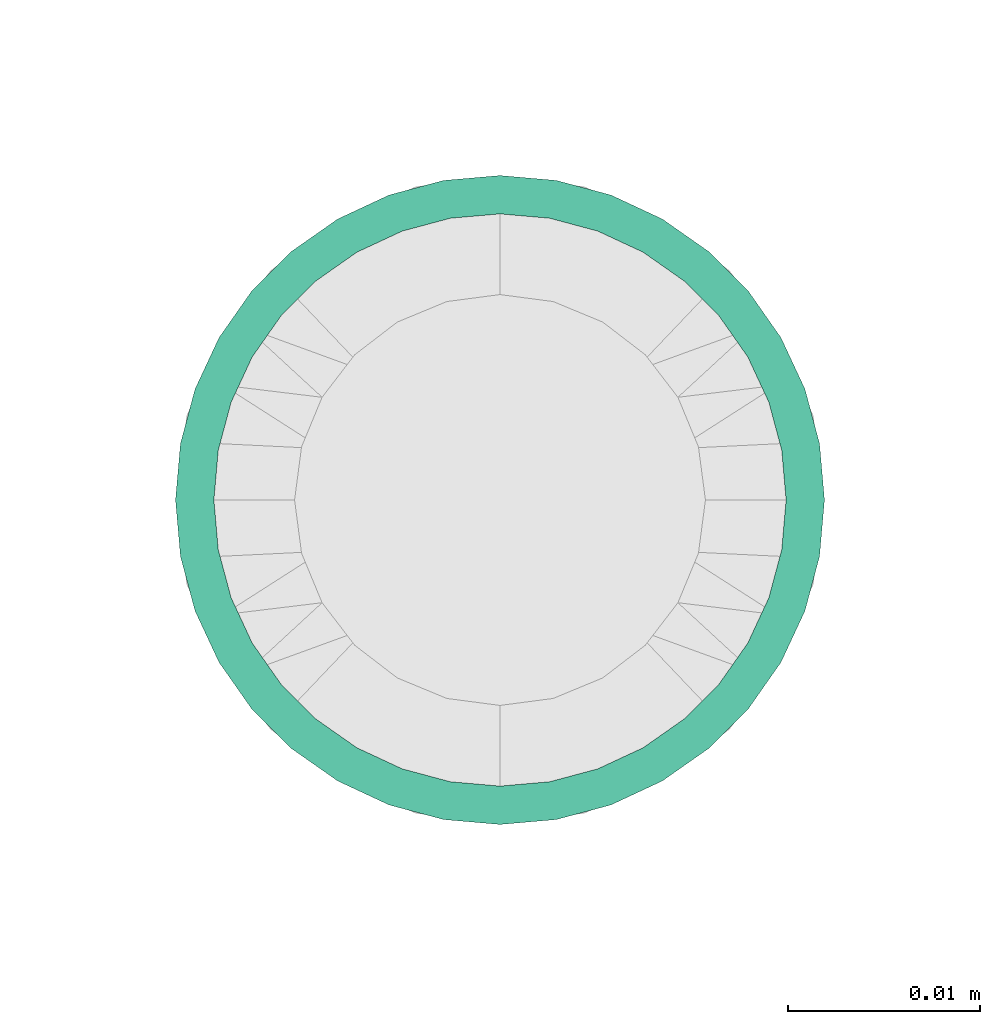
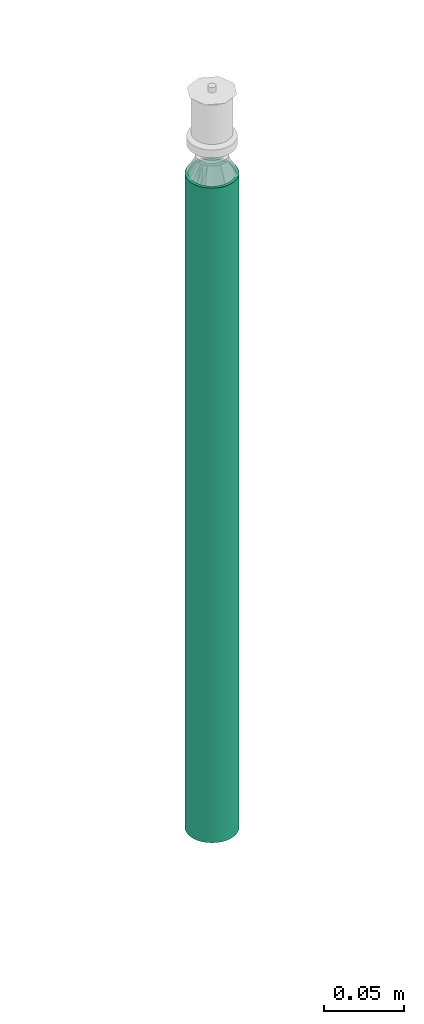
# One storey, part 41 of 44: 1 flow segment.
"""IFC2X3 building model written with IfcOpenShell, lengths in millimetres."""

from ifc_helpers import new_model, entity, si_unit, converted_unit, derived_unit, direction, frame, place, context, subcontext, project, spatial, faceted_brep, type_object, element, save


model = new_model("IFC2X3")

# Units and contexts
model_context = context("Model", 3, precision=0.01, world=frame((0.0, 4.29681676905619e-09, 0.0)), true_north=direction((4.01073788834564e-13, 1.0)))
plan_context = context("Plan", 3, precision=0.01, world=frame((0.0, 4.29681676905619e-09, 0.0)), true_north=direction((4.01073788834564e-13, 1.0)))
body_context = subcontext(model_context, "Body", "Model", "MODEL_VIEW")
ifc_project = project(units=[converted_unit("PLANEANGLEUNIT", "DEGREE", entity("IfcPositiveLengthMeasure", 0.0174532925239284), si_unit("PLANEANGLEUNIT", "RADIAN"), dimensions=[0, 0, 0, 0, 0, 0, 0]), si_unit("AREAUNIT", "SQUARE_METRE"), si_unit("LENGTHUNIT", "METRE", prefix="MILLI"), si_unit("MASSUNIT", "GRAM", prefix="KILO"), si_unit("POWERUNIT", "WATT"), si_unit("PRESSUREUNIT", "PASCAL"), si_unit("FORCEUNIT", "NEWTON", prefix="KILO"), si_unit("ELECTRICVOLTAGEUNIT", "VOLT"), si_unit("ELECTRICCURRENTUNIT", "AMPERE"), si_unit("THERMODYNAMICTEMPERATUREUNIT", "DEGREE_CELSIUS"), si_unit("TIMEUNIT", "SECOND"), si_unit("VOLUMEUNIT", "CUBIC_METRE"), derived_unit("LINEARVELOCITYUNIT", [(si_unit("LENGTHUNIT", "METRE"), 1), (si_unit("TIMEUNIT", "SECOND"), -1)]), derived_unit("VOLUMETRICFLOWRATEUNIT", [(si_unit("VOLUMEUNIT", "CUBIC_METRE"), 1), (si_unit("TIMEUNIT", "SECOND"), -1)]), derived_unit("THERMALTRANSMITTANCEUNIT", [(si_unit("POWERUNIT", "WATT"), 1), (si_unit("THERMODYNAMICTEMPERATUREUNIT", "KELVIN"), -1), (si_unit("AREAUNIT", "SQUARE_METRE"), -1)]), derived_unit("SOUNDPRESSUREUNIT", [(si_unit("PRESSUREUNIT", "PASCAL"), 1)])], contexts=[model_context, plan_context])

# Site, building, storey
site_placement = place(None, frame((0.0, -4.29681676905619e-09, 0.0), z_axis=(0.0, 0.0, 1.0), x_axis=(1.0, 0.0, 0.0)))
site = spatial("IfcSite", under=ifc_project, at=site_placement, CompositionType="ELEMENT")
building_placement = place(site_placement, frame((0.0, 4.29681676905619e-09, 0.0), z_axis=(0.0, 0.0, 1.0), x_axis=(1.0, 0.0, 0.0)))
building = spatial("IfcBuilding", under=site, at=building_placement, Name="mc-building", CompositionType="ELEMENT")
storey_placement = place(building_placement, frame((0.0, 0.0, 207370.0), z_axis=(0.0, 0.0, 1.0), x_axis=(1.0, 0.0, 0.0)))
storey = spatial("IfcBuildingStorey", under=building, at=storey_placement, Name="Nivå E", CompositionType="ELEMENT", Elevation=207370.0)

# Flow segment
pipe_segment_type = type_object("IfcPipeSegmentType", Name="Stålrør normaltykke", PredefinedType="RIGIDSEGMENT")
flow_segment_placement = place(storey_placement, frame((533500.0, 453009.83177, 3027.60555000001), z_axis=(-1.0, 0.0, 0.0), x_axis=(0.0, 0.0, -1.0)))
element("IfcFlowSegment", 1, at=flow_segment_placement, inside=storey, type_object=pipe_segment_type, Name="Stålrør normaltykke", context=body_context, shape_type="Brep", body=[
    faceted_brep([(497.605550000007, 14.9, 0.0), (497.605550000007, 14.6736355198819, -2.58735784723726), (0.0, 14.6736355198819, -2.58735784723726), (0.0, 14.9, 0.0), (497.605550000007, 14.00142004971, -5.09610013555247), (0.0, 14.00142004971, -5.09610013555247), (497.605550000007, 12.9037785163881, -7.45000000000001), (0.0, 12.9037785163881, -7.45000000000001), (497.605550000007, 11.4140622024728, -9.57753538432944), (0.0, 11.4140622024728, -9.57753538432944), (497.605550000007, 9.57753538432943, -11.4140622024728), (0.0, 9.57753538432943, -11.4140622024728), (497.605550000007, 7.45, -12.9037785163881), (0.0, 7.45, -12.9037785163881), (497.605550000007, 5.09610013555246, -14.00142004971), (0.0, 5.09610013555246, -14.00142004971), (497.605550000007, 2.58735784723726, -14.6736355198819), (0.0, 2.58735784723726, -14.6736355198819), (497.605550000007, -2.73708559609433e-15, -14.9), (0.0, -2.73708559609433e-15, -14.9), (497.605550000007, -2.58735784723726, -14.6736355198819), (0.0, -2.58735784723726, -14.6736355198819), (497.605550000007, -5.09610013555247, -14.00142004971), (0.0, -5.09610013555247, -14.00142004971), (497.605550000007, -7.45000000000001, -12.9037785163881), (0.0, -7.45000000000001, -12.9037785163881), (497.605550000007, -9.57753538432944, -11.4140622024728), (0.0, -9.57753538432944, -11.4140622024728), (497.605550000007, -11.4140622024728, -9.57753538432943), (0.0, -11.4140622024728, -9.57753538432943), (497.605550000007, -12.9037785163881, -7.44999999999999), (0.0, -12.9037785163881, -7.44999999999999), (497.605550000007, -14.00142004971, -5.09610013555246), (0.0, -14.00142004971, -5.09610013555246), (497.605550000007, -14.6736355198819, -2.58735784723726), (0.0, -14.6736355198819, -2.58735784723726), (497.605550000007, -14.9, 1.82472373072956e-15), (0.0, -14.9, 1.82472373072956e-15), (497.605550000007, -14.6736355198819, 2.58735784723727), (0.0, -14.6736355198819, 2.58735784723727), (497.605550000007, -14.00142004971, 5.09610013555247), (0.0, -14.00142004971, 5.09610013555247), (497.605550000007, -12.9037785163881, 7.45), (0.0, -12.9037785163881, 7.45), (497.605550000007, -11.4140622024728, 9.57753538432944), (0.0, -11.4140622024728, 9.57753538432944), (497.605550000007, -9.57753538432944, 11.4140622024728), (0.0, -9.57753538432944, 11.4140622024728), (497.605550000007, -7.45, 12.9037785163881), (0.0, -7.45, 12.9037785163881), (497.605550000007, -5.09610013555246, 14.00142004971), (0.0, -5.09610013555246, 14.00142004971), (497.605550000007, -2.58735784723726, 14.6736355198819), (0.0, -2.58735784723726, 14.6736355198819), (497.605550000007, 9.12361865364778e-16, 14.9), (0.0, 9.12361865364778e-16, 14.9), (497.605550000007, 2.58735784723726, 14.6736355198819), (0.0, 2.58735784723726, 14.6736355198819), (497.605550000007, 5.09610013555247, 14.00142004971), (0.0, 5.09610013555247, 14.00142004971), (497.605550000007, 7.45, 12.9037785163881), (0.0, 7.45, 12.9037785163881), (497.605550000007, 9.57753538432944, 11.4140622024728), (0.0, 9.57753538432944, 11.4140622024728), (497.605550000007, 11.4140622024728, 9.57753538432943), (0.0, 11.4140622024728, 9.57753538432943), (497.605550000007, 12.9037785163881, 7.45), (0.0, 12.9037785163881, 7.45), (497.605550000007, 14.00142004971, 5.09610013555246), (0.0, 14.00142004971, 5.09610013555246), (497.605550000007, 14.6736355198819, 2.58735784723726), (0.0, 14.6736355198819, 2.58735784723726), (497.605550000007, 16.6432510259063, -2.93465420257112), (497.605550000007, 16.9, 0.0), (0.0, 16.9, 0.0), (0.0, 16.6432510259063, -2.93465420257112), (497.605550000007, 16.6432510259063, 2.93465420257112), (0.0, 16.6432510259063, 2.93465420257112), (497.605550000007, 15.8808052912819, 5.7801404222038), (0.0, 15.8808052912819, 5.7801404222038), (497.605550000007, 14.635829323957, 8.45), (0.0, 14.635829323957, 8.45), (497.605550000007, 12.9461510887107, 10.8631106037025), (0.0, 12.9461510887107, 10.8631106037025), (497.605550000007, 10.8631106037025, 12.9461510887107), (0.0, 10.8631106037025, 12.9461510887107), (497.605550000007, 8.45, 14.635829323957), (0.0, 8.45, 14.635829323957), (497.605550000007, 5.7801404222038, 15.8808052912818), (0.0, 5.7801404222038, 15.8808052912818), (497.605550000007, 2.93465420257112, 16.6432510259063), (0.0, 2.93465420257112, 16.6432510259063), (497.605550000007, 1.03482654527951e-15, 16.9), (0.0, 1.03482654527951e-15, 16.9), (497.605550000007, -2.93465420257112, 16.6432510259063), (0.0, -2.93465420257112, 16.6432510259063), (497.605550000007, -5.7801404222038, 15.8808052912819), (0.0, -5.7801404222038, 15.8808052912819), (497.605550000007, -8.45, 14.635829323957), (0.0, -8.45, 14.635829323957), (497.605550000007, -10.8631106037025, 12.9461510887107), (0.0, -10.8631106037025, 12.9461510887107), (497.605550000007, -12.9461510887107, 10.8631106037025), (0.0, -12.9461510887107, 10.8631106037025), (497.605550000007, -14.635829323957, 8.45), (0.0, -14.635829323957, 8.45), (497.605550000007, -15.8808052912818, 5.7801404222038), (0.0, -15.8808052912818, 5.7801404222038), (497.605550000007, -16.6432510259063, 2.93465420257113), (0.0, -16.6432510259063, 2.93465420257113), (497.605550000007, -16.9, 2.06965309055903e-15), (0.0, -16.9, 2.06965309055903e-15), (497.605550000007, -16.6432510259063, -2.93465420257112), (0.0, -16.6432510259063, -2.93465420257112), (497.605550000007, -15.8808052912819, -5.7801404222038), (0.0, -15.8808052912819, -5.7801404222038), (497.605550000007, -14.635829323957, -8.44999999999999), (0.0, -14.635829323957, -8.44999999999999), (497.605550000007, -12.9461510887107, -10.8631106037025), (0.0, -12.9461510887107, -10.8631106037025), (497.605550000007, -10.8631106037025, -12.9461510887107), (0.0, -10.8631106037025, -12.9461510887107), (497.605550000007, -8.45000000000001, -14.635829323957), (0.0, -8.45000000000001, -14.635829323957), (497.605550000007, -5.78014042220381, -15.8808052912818), (0.0, -5.78014042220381, -15.8808052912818), (497.605550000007, -2.93465420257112, -16.6432510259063), (0.0, -2.93465420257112, -16.6432510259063), (497.605550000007, -3.10447963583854e-15, -16.9), (0.0, -3.10447963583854e-15, -16.9), (497.605550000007, 2.93465420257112, -16.6432510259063), (0.0, 2.93465420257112, -16.6432510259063), (497.605550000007, 5.78014042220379, -15.8808052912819), (0.0, 5.78014042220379, -15.8808052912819), (497.605550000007, 8.45, -14.635829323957), (0.0, 8.45, -14.635829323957), (497.605550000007, 10.8631106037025, -12.9461510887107), (0.0, 10.8631106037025, -12.9461510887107), (497.605550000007, 12.9461510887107, -10.8631106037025), (0.0, 12.9461510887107, -10.8631106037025), (497.605550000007, 14.635829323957, -8.45000000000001), (0.0, 14.635829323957, -8.45000000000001), (497.605550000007, 15.8808052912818, -5.78014042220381), (0.0, 15.8808052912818, -5.78014042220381)], [[[0, 1, 2, 3]], [[1, 4, 5, 2]], [[4, 6, 7, 5]], [[6, 8, 9, 7]], [[8, 10, 11, 9]], [[10, 12, 13, 11]], [[12, 14, 15, 13]], [[14, 16, 17, 15]], [[16, 18, 19, 17]], [[18, 20, 21, 19]], [[20, 22, 23, 21]], [[22, 24, 25, 23]], [[24, 26, 27, 25]], [[26, 28, 29, 27]], [[28, 30, 31, 29]], [[30, 32, 33, 31]], [[32, 34, 35, 33]], [[34, 36, 37, 35]], [[36, 38, 39, 37]], [[38, 40, 41, 39]], [[40, 42, 43, 41]], [[42, 44, 45, 43]], [[44, 46, 47, 45]], [[46, 48, 49, 47]], [[48, 50, 51, 49]], [[50, 52, 53, 51]], [[52, 54, 55, 53]], [[54, 56, 57, 55]], [[56, 58, 59, 57]], [[58, 60, 61, 59]], [[60, 62, 63, 61]], [[62, 64, 65, 63]], [[64, 66, 67, 65]], [[66, 68, 69, 67]], [[68, 70, 71, 69]], [[70, 0, 3, 71]], [[72, 73, 74, 75]], [[73, 76, 77, 74]], [[76, 78, 79, 77]], [[78, 80, 81, 79]], [[80, 82, 83, 81]], [[82, 84, 85, 83]], [[84, 86, 87, 85]], [[86, 88, 89, 87]], [[88, 90, 91, 89]], [[90, 92, 93, 91]], [[92, 94, 95, 93]], [[94, 96, 97, 95]], [[96, 98, 99, 97]], [[98, 100, 101, 99]], [[100, 102, 103, 101]], [[102, 104, 105, 103]], [[104, 106, 107, 105]], [[106, 108, 109, 107]], [[108, 110, 111, 109]], [[110, 112, 113, 111]], [[112, 114, 115, 113]], [[114, 116, 117, 115]], [[116, 118, 119, 117]], [[118, 120, 121, 119]], [[120, 122, 123, 121]], [[122, 124, 125, 123]], [[124, 126, 127, 125]], [[126, 128, 129, 127]], [[128, 130, 131, 129]], [[130, 132, 133, 131]], [[132, 134, 135, 133]], [[134, 136, 137, 135]], [[136, 138, 139, 137]], [[138, 140, 141, 139]], [[140, 142, 143, 141]], [[142, 72, 75, 143]], [[75, 74, 77, 79, 81, 83, 85, 87, 89, 91, 93, 95, 97, 99, 101, 103, 105, 107, 109, 111, 113, 115, 117, 119, 121, 123, 125, 127, 129, 131, 133, 135, 137, 139, 141, 143], [3, 2, 5, 7, 9, 11, 13, 15, 17, 19, 21, 23, 25, 27, 29, 31, 33, 35, 37, 39, 41, 43, 45, 47, 49, 51, 53, 55, 57, 59, 61, 63, 65, 67, 69, 71]], [[142, 140, 138, 136, 134, 132, 130, 128, 126, 124, 122, 120, 118, 116, 114, 112, 110, 108, 106, 104, 102, 100, 98, 96, 94, 92, 90, 88, 86, 84, 82, 80, 78, 76, 73, 72], [70, 68, 66, 64, 62, 60, 58, 56, 54, 52, 50, 48, 46, 44, 42, 40, 38, 36, 34, 32, 30, 28, 26, 24, 22, 20, 18, 16, 14, 12, 10, 8, 6, 4, 1, 0]]], orient=[[False], [False], [False], [False], [False], [False], [False], [False], [False], [False], [False], [False], [False], [False], [False], [False], [False], [False], [False], [False], [False], [False], [False], [False], [False], [False], [False], [False], [False], [False], [False], [False], [False], [False], [False], [False], [False], [False], [False], [False], [False], [False], [False], [False], [False], [False], [False], [False], [False], [False], [False], [False], [False], [False], [False], [False], [False], [False], [False], [False], [False], [False], [False], [False], [False], [False], [False], [False], [False], [False], [False], [False], [False, False], [False, False]]),
])

save(model, "model.ifc")
